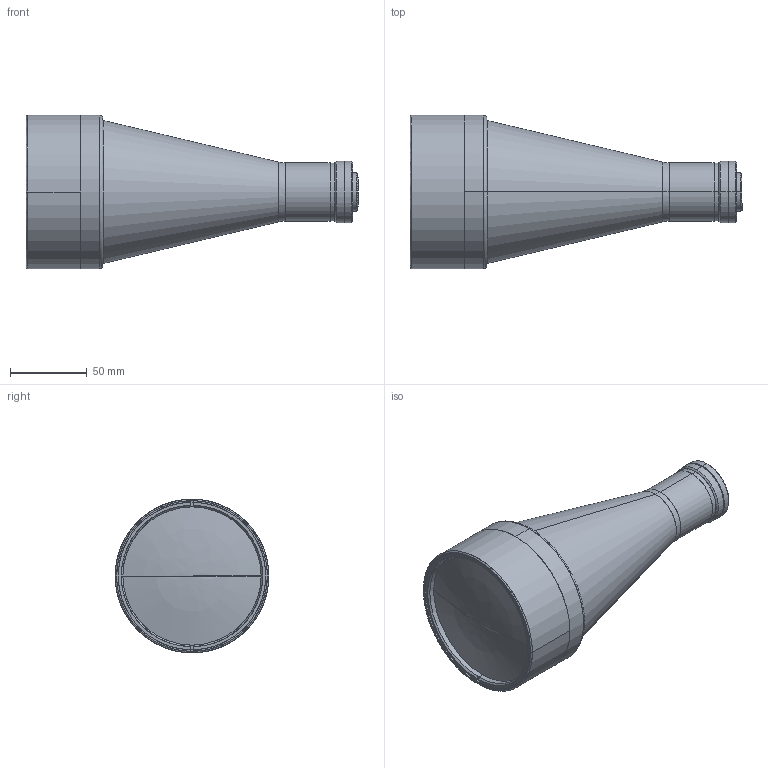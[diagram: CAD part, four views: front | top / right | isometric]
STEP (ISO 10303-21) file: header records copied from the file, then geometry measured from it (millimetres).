
FILE_DESCRIPTION(('LS-TCL-0178'),'2;1');
FILE_NAME('LS-TCL-0178.stp','2026-10-15T21:54:26',('LumaSpec Vision'),('LumaSpec Vision'),'LumaSpec Vision','LumaSpec Vision','');
FILE_SCHEMA(('AUTOMOTIVE_DESIGN { 1 0 10303 214 1 1 1 1 }'));
Length unit declared in the file: millimetre
Products named in the file (78): LumaSpec Vision
Assembly tree (77 placements, depth 2):
  LumaSpec Vision
    LumaSpec Vision
    LumaSpec Vision
    LumaSpec Vision
    LumaSpec Vision
    LumaSpec Vision
    LumaSpec Vision
    LumaSpec Vision
    LumaSpec Vision
    LumaSpec Vision
    LumaSpec Vision
    LumaSpec Vision
    LumaSpec Vision
    LumaSpec Vision
    LumaSpec Vision
    LumaSpec Vision
    LumaSpec Vision
    LumaSpec Vision
    LumaSpec Vision
    LumaSpec Vision
    LumaSpec Vision
    LumaSpec Vision
    LumaSpec Vision
    LumaSpec Vision
    LumaSpec Vision
    LumaSpec Vision
    LumaSpec Vision
    LumaSpec Vision
    LumaSpec Vision
    LumaSpec Vision
    LumaSpec Vision
    LumaSpec Vision
    LumaSpec Vision
    LumaSpec Vision
    LumaSpec Vision
    LumaSpec Vision
    LumaSpec Vision
    LumaSpec Vision
    LumaSpec Vision
    LumaSpec Vision
    LumaSpec Vision
    LumaSpec Vision
    LumaSpec Vision
    LumaSpec Vision
    LumaSpec Vision
    LumaSpec Vision
    LumaSpec Vision
    LumaSpec Vision
    LumaSpec Vision
    LumaSpec Vision
    LumaSpec Vision
    LumaSpec Vision
    LumaSpec Vision
    LumaSpec Vision
    LumaSpec Vision
    LumaSpec Vision
    LumaSpec Vision
    LumaSpec Vision
    LumaSpec Vision
    LumaSpec Vision
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Bounding box: 216.04 x 100 x 100 mm (x, y, z)
Surface area: 70493.9 mm2 (no closed solid volume)
Topology: 0 solids, 77 shells, 77 faces, 1962 edges, 1960 vertices
Faces by surface type: revolution 50, bspline 27
Entity records: 31736 total; most frequent: CARTESIAN_POINT 13406, B_SPLINE_CURVE_WITH_KNOTS 3666, ORIENTED_EDGE 1960, EDGE_CURVE 1960, VERTEX_POINT 1960, SURFACE_CURVE 1960, PCURVE 1960, DEFINITIONAL_REPRESENTATION 1960
